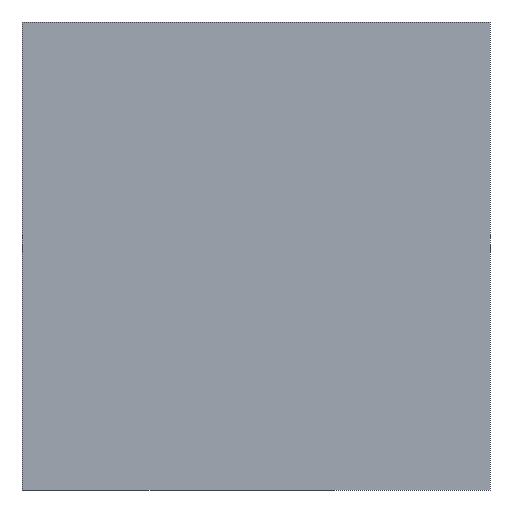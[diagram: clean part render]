
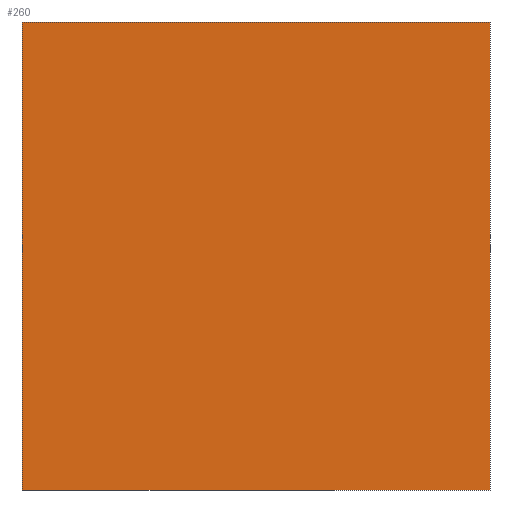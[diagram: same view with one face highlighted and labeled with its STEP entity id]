
A CAD part, left-side view. The second image highlights one B-rep face of the part: STEP entity #260.
In plain terms, the highlighted planar face has unit normal (-1, 0, 0).
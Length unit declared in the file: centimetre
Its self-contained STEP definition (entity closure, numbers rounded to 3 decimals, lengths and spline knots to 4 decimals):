
#8 = VECTOR ( 'NONE', #350, 100. ) ;
#9 = CARTESIAN_POINT ( 'NONE',  ( 0., 1000., 1000. ) ) ;
#15 = ORIENTED_EDGE ( 'NONE', *, *, #232, .F. ) ;
#44 = DIRECTION ( 'NONE',  ( 0., 0., -1. ) ) ;
#47 = VERTEX_POINT ( 'NONE', #65 ) ;
#65 = CARTESIAN_POINT ( 'NONE',  ( 0., 1000., 1000. ) ) ;
#82 = EDGE_LOOP ( 'NONE', ( #270, #127, #15, #277 ) ) ;
#84 = VECTOR ( 'NONE', #44, 100. ) ;
#93 = VERTEX_POINT ( 'NONE', #165 ) ;
#97 = CARTESIAN_POINT ( 'NONE',  ( 0., 0., 1000. ) ) ;
#111 = DIRECTION ( 'NONE',  ( 1., 0., 0. ) ) ;
#127 = ORIENTED_EDGE ( 'NONE', *, *, #365, .F. ) ;
#133 = AXIS2_PLACEMENT_3D ( 'NONE', #9, #111, #488 ) ;
#165 = CARTESIAN_POINT ( 'NONE',  ( 0., 0., 1000. ) ) ;
#191 = CARTESIAN_POINT ( 'NONE',  ( 0., 1000., 1000. ) ) ;
#232 = EDGE_CURVE ( 'NONE', #47, #93, #486, .T. ) ;
#243 = VECTOR ( 'NONE', #457, 100. ) ;
#260 = ADVANCED_FACE ( 'NONE', ( #477 ), #304, .F. ) ;
#270 = ORIENTED_EDGE ( 'NONE', *, *, #463, .T. ) ;
#277 = ORIENTED_EDGE ( 'NONE', *, *, #526, .T. ) ;
#278 = CARTESIAN_POINT ( 'NONE',  ( 0., 1000., 0. ) ) ;
#304 = PLANE ( 'NONE',  #133 ) ;
#326 = LINE ( 'NONE', #278, #453 ) ;
#337 = CARTESIAN_POINT ( 'NONE',  ( 0., 0., 0. ) ) ;
#350 = DIRECTION ( 'NONE',  ( 0., -1., 0. ) ) ;
#359 = VERTEX_POINT ( 'NONE', #591 ) ;
#365 = EDGE_CURVE ( 'NONE', #93, #528, #505, .T. ) ;
#378 = LINE ( 'NONE', #191, #84 ) ;
#453 = VECTOR ( 'NONE', #519, 100. ) ;
#457 = DIRECTION ( 'NONE',  ( 0., 0., -1. ) ) ;
#463 = EDGE_CURVE ( 'NONE', #359, #528, #326, .T. ) ;
#477 = FACE_OUTER_BOUND ( 'NONE', #82, .T. ) ;
#486 = LINE ( 'NONE', #564, #8 ) ;
#488 = DIRECTION ( 'NONE',  ( 0., 0., -1. ) ) ;
#505 = LINE ( 'NONE', #97, #243 ) ;
#519 = DIRECTION ( 'NONE',  ( 0., -1., 0. ) ) ;
#526 = EDGE_CURVE ( 'NONE', #47, #359, #378, .T. ) ;
#528 = VERTEX_POINT ( 'NONE', #337 ) ;
#564 = CARTESIAN_POINT ( 'NONE',  ( 0., 1000., 1000. ) ) ;
#591 = CARTESIAN_POINT ( 'NONE',  ( 0., 1000., 0. ) ) ;
